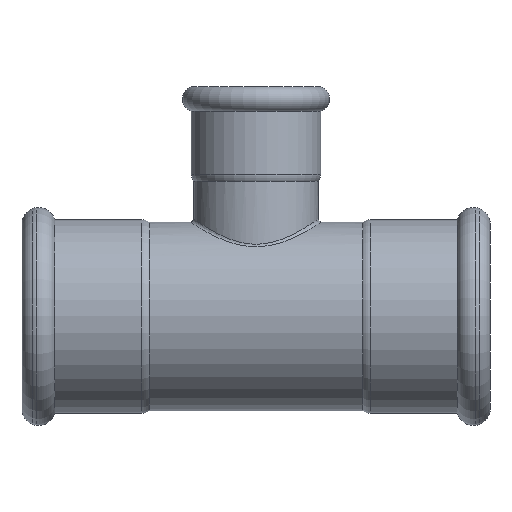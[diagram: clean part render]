
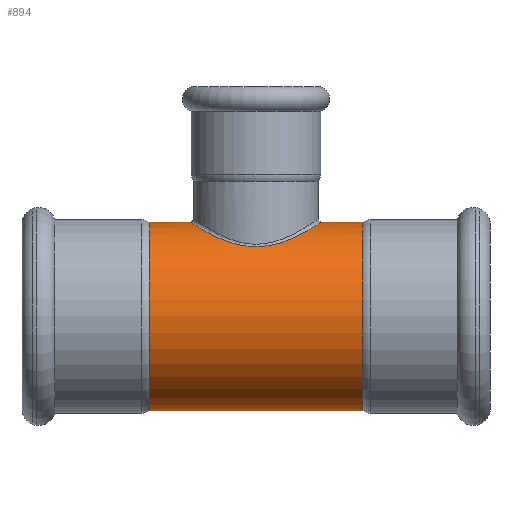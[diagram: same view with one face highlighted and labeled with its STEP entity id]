
A CAD part, front view. The second image highlights one B-rep face of the part: STEP entity #894.
In plain terms, the highlighted cylindrical face has radius 28 mm (diameter 56 mm), a full revolution.
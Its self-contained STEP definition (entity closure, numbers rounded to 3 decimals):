
#20=B_SPLINE_CURVE_WITH_KNOTS('',3,(#1952,#1953,#1954,#1955,#1956,#1957,
#1958,#1959,#1960,#1961,#1962,#1963,#1964,#1965,#1966,#1967,#1968,#1969,
#1970,#1971,#1972,#1973,#1974),.UNSPECIFIED.,.T.,.F.,(4,1,1,1,1,1,1,1,1,
1,1,1,1,1,1,1,1,1,1,1,4),(-11.603,-11.188,-10.774,
-9.945,-9.116,-8.702,-8.288,
-7.183,-6.63,-6.078,-5.525,
-4.973,-4.42,-3.868,-3.315,-2.763,
-2.21,-1.658,-0.829,-0.414,
0.),.UNSPECIFIED.);
#28=FACE_BOUND('',#161,.T.);
#44=LINE('',#1984,#65);
#65=VECTOR('',#1340,28.);
#84=CYLINDRICAL_SURFACE('',#1043,28.);
#116=FACE_OUTER_BOUND('',#160,.T.);
#160=EDGE_LOOP('',(#733,#734,#735,#736,#737,#738,#739,#740));
#161=EDGE_LOOP('',(#741));
#265=CIRCLE('',#1044,28.);
#266=CIRCLE('',#1045,28.);
#267=CIRCLE('',#1046,28.);
#268=CIRCLE('',#1047,28.);
#269=CIRCLE('',#1048,28.);
#270=CIRCLE('',#1049,28.);
#377=VERTEX_POINT('',#1921);
#380=VERTEX_POINT('',#1978);
#381=VERTEX_POINT('',#1979);
#382=VERTEX_POINT('',#1981);
#383=VERTEX_POINT('',#1983);
#384=VERTEX_POINT('',#1985);
#385=VERTEX_POINT('',#1987);
#511=EDGE_CURVE('',#377,#377,#20,.T.);
#513=EDGE_CURVE('',#380,#381,#265,.T.);
#514=EDGE_CURVE('',#382,#380,#266,.T.);
#515=EDGE_CURVE('',#382,#383,#44,.T.);
#516=EDGE_CURVE('',#383,#384,#267,.T.);
#517=EDGE_CURVE('',#384,#385,#268,.T.);
#518=EDGE_CURVE('',#385,#383,#269,.T.);
#519=EDGE_CURVE('',#381,#382,#270,.T.);
#733=ORIENTED_EDGE('',*,*,#513,.F.);
#734=ORIENTED_EDGE('',*,*,#514,.F.);
#735=ORIENTED_EDGE('',*,*,#515,.T.);
#736=ORIENTED_EDGE('',*,*,#516,.T.);
#737=ORIENTED_EDGE('',*,*,#517,.T.);
#738=ORIENTED_EDGE('',*,*,#518,.T.);
#739=ORIENTED_EDGE('',*,*,#515,.F.);
#740=ORIENTED_EDGE('',*,*,#519,.F.);
#741=ORIENTED_EDGE('',*,*,#511,.F.);
#894=ADVANCED_FACE('',(#116,#28),#84,.T.);
#1043=AXIS2_PLACEMENT_3D('',#1977,#1334,#1335);
#1044=AXIS2_PLACEMENT_3D('',#1980,#1336,#1337);
#1045=AXIS2_PLACEMENT_3D('',#1982,#1338,#1339);
#1046=AXIS2_PLACEMENT_3D('',#1986,#1341,#1342);
#1047=AXIS2_PLACEMENT_3D('',#1988,#1343,#1344);
#1048=AXIS2_PLACEMENT_3D('',#1989,#1345,#1346);
#1049=AXIS2_PLACEMENT_3D('',#1990,#1347,#1348);
#1334=DIRECTION('center_axis',(1.,0.,0.));
#1335=DIRECTION('ref_axis',(0.,1.,0.));
#1336=DIRECTION('center_axis',(1.,0.,0.));
#1337=DIRECTION('ref_axis',(0.,1.,0.));
#1338=DIRECTION('center_axis',(1.,0.,0.));
#1339=DIRECTION('ref_axis',(0.,1.,0.));
#1340=DIRECTION('',(-1.,0.,0.));
#1341=DIRECTION('center_axis',(1.,0.,0.));
#1342=DIRECTION('ref_axis',(0.,1.,0.));
#1343=DIRECTION('center_axis',(1.,0.,0.));
#1344=DIRECTION('ref_axis',(0.,1.,0.));
#1345=DIRECTION('center_axis',(1.,0.,0.));
#1346=DIRECTION('ref_axis',(0.,1.,0.));
#1347=DIRECTION('center_axis',(1.,0.,0.));
#1348=DIRECTION('ref_axis',(0.,1.,0.));
#1921=CARTESIAN_POINT('',(0.,18.828,20.725));
#1952=CARTESIAN_POINT('Ctrl Pts',(0.,18.828,
20.725));
#1953=CARTESIAN_POINT('Ctrl Pts',(-1.512,18.828,20.725));
#1954=CARTESIAN_POINT('Ctrl Pts',(-4.532,18.485,21.045));
#1955=CARTESIAN_POINT('Ctrl Pts',(-10.037,16.546,22.67));
#1956=CARTESIAN_POINT('Ctrl Pts',(-15.607,12.267,25.52));
#1957=CARTESIAN_POINT('Ctrl Pts',(-18.965,5.842,27.653));
#1958=CARTESIAN_POINT('Ctrl Pts',(-19.68,0.004,
28.114));
#1959=CARTESIAN_POINT('Ctrl Pts',(-18.839,-6.833,27.582));
#1960=CARTESIAN_POINT('Ctrl Pts',(-14.96,-13.014,25.08));
#1961=CARTESIAN_POINT('Ctrl Pts',(-8.738,-17.123,22.219));
#1962=CARTESIAN_POINT('Ctrl Pts',(-3.093,-18.902,20.667));
#1963=CARTESIAN_POINT('Ctrl Pts',(3.093,-18.897,20.664));
#1964=CARTESIAN_POINT('Ctrl Pts',(8.736,-17.133,22.223));
#1965=CARTESIAN_POINT('Ctrl Pts',(13.41,-14.025,24.359));
#1966=CARTESIAN_POINT('Ctrl Pts',(17.021,-9.739,26.42));
#1967=CARTESIAN_POINT('Ctrl Pts',(19.274,-4.424,27.849));
#1968=CARTESIAN_POINT('Ctrl Pts',(19.759,1.493,28.171));
#1969=CARTESIAN_POINT('Ctrl Pts',(18.344,7.195,27.245));
#1970=CARTESIAN_POINT('Ctrl Pts',(14.863,12.824,25.138));
#1971=CARTESIAN_POINT('Ctrl Pts',(10.037,16.553,22.671));
#1972=CARTESIAN_POINT('Ctrl Pts',(4.532,18.483,21.044));
#1973=CARTESIAN_POINT('Ctrl Pts',(1.512,18.828,20.725));
#1974=CARTESIAN_POINT('Ctrl Pts',(0.,18.828,
20.725));
#1977=CARTESIAN_POINT('Origin',(26.817,0.,0.));
#1978=CARTESIAN_POINT('',(31.735,28.,0.));
#1979=CARTESIAN_POINT('',(31.735,0.,28.));
#1980=CARTESIAN_POINT('Origin',(31.735,0.,0.));
#1981=CARTESIAN_POINT('',(31.735,-28.,0.));
#1982=CARTESIAN_POINT('Origin',(31.735,0.,0.));
#1983=CARTESIAN_POINT('',(-31.735,-28.,0.));
#1984=CARTESIAN_POINT('',(26.817,-28.,0.));
#1985=CARTESIAN_POINT('',(-31.735,28.,0.));
#1986=CARTESIAN_POINT('Origin',(-31.735,0.,0.));
#1987=CARTESIAN_POINT('',(-31.735,0.,28.));
#1988=CARTESIAN_POINT('Origin',(-31.735,0.,0.));
#1989=CARTESIAN_POINT('Origin',(-31.735,0.,0.));
#1990=CARTESIAN_POINT('Origin',(31.735,0.,0.));
